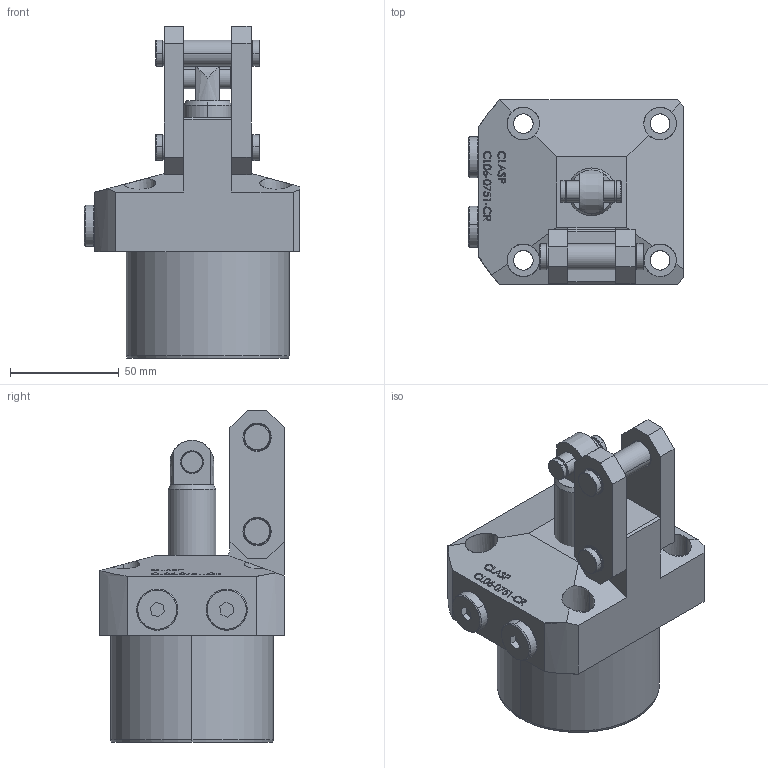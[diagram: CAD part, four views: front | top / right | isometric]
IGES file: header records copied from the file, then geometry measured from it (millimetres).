
Start section: SolidWorks IGES file using analytic representation for surfaces
Global section: file name: D:\karuppas\Clasp\3D model\Link clamp cylinder\CL06-0751 CR\CL06-0751 R.IGS; native system: SolidWorks 2017; preprocessor: SolidWorks 2017; author: pc; date: 220705.231141; units: millimetre
Bounding box: 99.5 x 85 x 153 mm (x, y, z)
Surface area: 68934.4 mm2 (no closed solid volume)
Topology: 0 solids, 0 shells, 415 faces, 6298 edges, 6294 vertices
Faces by surface type: bspline 280, revolution 135
